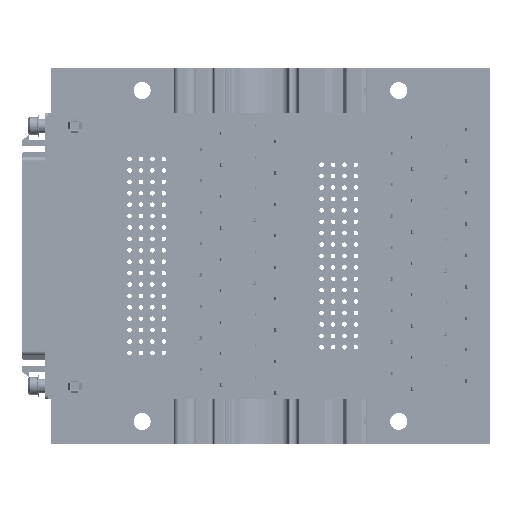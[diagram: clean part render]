
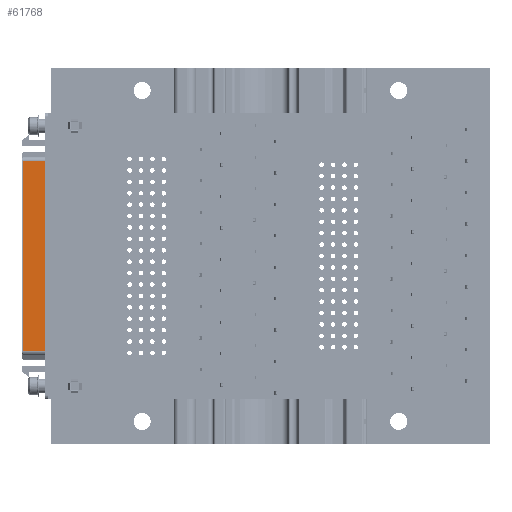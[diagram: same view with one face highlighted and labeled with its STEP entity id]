
A CAD part, front view. The second image highlights one B-rep face of the part: STEP entity #61768.
In plain terms, the highlighted planar face has unit normal (0, -1, 0).
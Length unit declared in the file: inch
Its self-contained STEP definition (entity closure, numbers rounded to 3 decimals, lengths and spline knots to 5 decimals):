
#14435 = PLANE ( 'NONE',  #414469 ) ;
#61768 = ADVANCED_FACE ( 'NONE', ( #178596 ), #14435, .T. ) ;
#77356 = DIRECTION ( 'NONE',  ( -1., 0., 0. ) ) ;
#90445 = DIRECTION ( 'NONE',  ( 0., 0., -1. ) ) ;
#110431 = LINE ( 'NONE', #187549, #371680 ) ;
#129893 = VERTEX_POINT ( 'NONE', #160866 ) ;
#136403 = CARTESIAN_POINT ( 'NONE',  ( 0.83149, -0.109, -0.197 ) ) ;
#143724 = DIRECTION ( 'NONE',  ( -1., 0., 0. ) ) ;
#160866 = CARTESIAN_POINT ( 'NONE',  ( -0.83149, -0.109, -0.004 ) ) ;
#166485 = DIRECTION ( 'NONE',  ( 0., -1., 0. ) ) ;
#178596 = FACE_OUTER_BOUND ( 'NONE', #285489, .T. ) ;
#182116 = VECTOR ( 'NONE', #338549, 39.37008 ) ;
#187549 = CARTESIAN_POINT ( 'NONE',  ( -0.83149, -0.109, 0. ) ) ;
#205483 = LINE ( 'NONE', #294742, #239737 ) ;
#208938 = EDGE_CURVE ( 'NONE', #285602, #129893, #205483, .T. ) ;
#213377 = VECTOR ( 'NONE', #143724, 39.37008 ) ;
#217290 = ORIENTED_EDGE ( 'NONE', *, *, #466677, .T. ) ;
#221870 = EDGE_CURVE ( 'NONE', #401014, #263230, #361106, .T. ) ;
#239737 = VECTOR ( 'NONE', #77356, 39.37008 ) ;
#250414 = LINE ( 'NONE', #336965, #182116 ) ;
#260644 = DIRECTION ( 'NONE',  ( 0., 0., -1. ) ) ;
#263230 = VERTEX_POINT ( 'NONE', #454650 ) ;
#285489 = EDGE_LOOP ( 'NONE', ( #217290, #351271, #317754, #415665 ) ) ;
#285602 = VERTEX_POINT ( 'NONE', #306628 ) ;
#294742 = CARTESIAN_POINT ( 'NONE',  ( -0.83149, -0.109, -0.004 ) ) ;
#306628 = CARTESIAN_POINT ( 'NONE',  ( 0.83149, -0.109, -0.004 ) ) ;
#312213 = EDGE_CURVE ( 'NONE', #129893, #263230, #110431, .T. ) ;
#317754 = ORIENTED_EDGE ( 'NONE', *, *, #312213, .T. ) ;
#323160 = CARTESIAN_POINT ( 'NONE',  ( -1.2575, -0.109, -0.197 ) ) ;
#336965 = CARTESIAN_POINT ( 'NONE',  ( 0.83149, -0.109, 0. ) ) ;
#338549 = DIRECTION ( 'NONE',  ( 0., 0., 1. ) ) ;
#351271 = ORIENTED_EDGE ( 'NONE', *, *, #208938, .T. ) ;
#361106 = LINE ( 'NONE', #323160, #213377 ) ;
#371680 = VECTOR ( 'NONE', #260644, 39.37008 ) ;
#379213 = CARTESIAN_POINT ( 'NONE',  ( -0.83149, -0.109, 0. ) ) ;
#401014 = VERTEX_POINT ( 'NONE', #136403 ) ;
#414469 = AXIS2_PLACEMENT_3D ( 'NONE', #379213, #166485, #90445 ) ;
#415665 = ORIENTED_EDGE ( 'NONE', *, *, #221870, .F. ) ;
#454650 = CARTESIAN_POINT ( 'NONE',  ( -0.83149, -0.109, -0.197 ) ) ;
#466677 = EDGE_CURVE ( 'NONE', #401014, #285602, #250414, .T. ) ;
